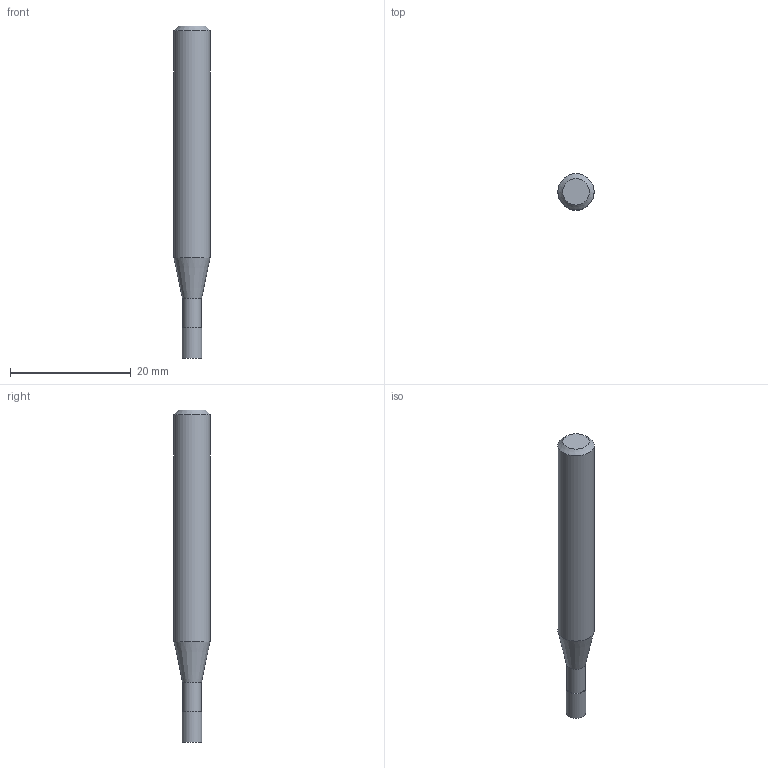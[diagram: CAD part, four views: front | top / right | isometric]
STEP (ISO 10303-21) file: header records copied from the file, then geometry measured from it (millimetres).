
FILE_DESCRIPTION((''),'2;1');
FILE_NAME('C:\Users\nsx150\AppData\Local\Temp\Mastercam 2021\EUJSUNXURU\TEMP.step','2021-04-22T10:28:05',(''),(''),'STEP Write','Mastercam 2021 ... CNC Software, Inc.','');
FILE_SCHEMA(('AUTOMOTIVE_DESIGN'));
Length unit declared in the file: millimetre
Products named in the file (1): None
Bounding box: 6 x 6 x 55 mm (x, y, z)
Volume: 1274.8 mm3; surface area: 966.1 mm2
Topology: 2 solids, 2 shells, 9 faces, 12 edges, 7 vertices
Faces by surface type: plane 4, cylinder 3, cone 2
Full cylindrical faces by diameter (mm): 3.15 x1, 3.3 x1, 6 x1
Entity records: 211 total; most frequent: DIRECTION 36, CARTESIAN_POINT 25, AXIS2_PLACEMENT_3D 18, ORIENTED_EDGE 14, EDGE_LOOP 14, STYLED_ITEM 12, ADVANCED_FACE 9, FACE_BOUND 8
